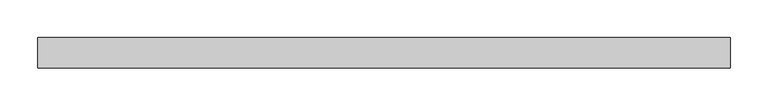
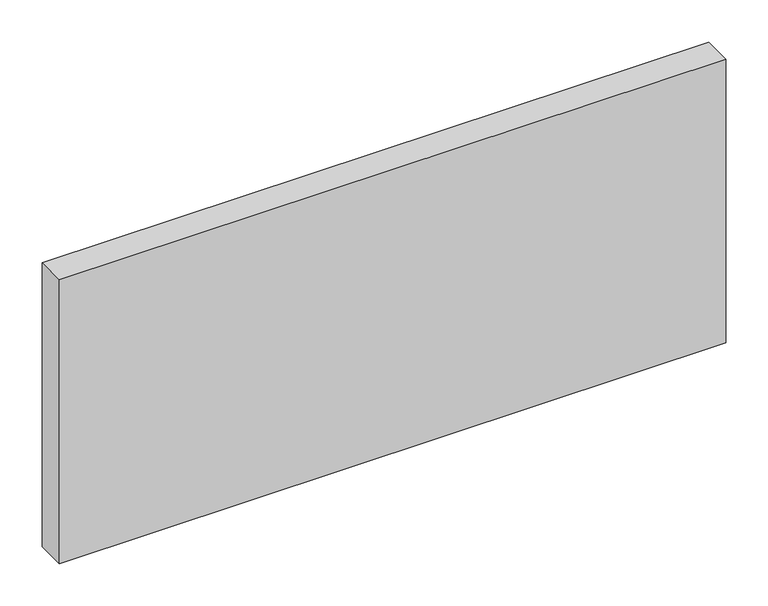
"""IFC4 building model written with IfcOpenShell, lengths in millimetres: plate geometry, Panneau système : Vitre 4cm."""

import ifcopenshell
import ifcopenshell.guid

model = None  # the IFC model being written
_history = None  # IfcOwnerHistory: only IFC2X3 demands one
_inside = {}  # id of a spatial element -> (the spatial element, [elements in it])
_under = {}  # id of a project, library or spatial element -> (it, [spatial elements below it])
_declared = {}  # id of a project -> (the project, [libraries it declares])
_typed = {}  # id of a type object -> (the type object, [elements of that type])
_made_of = {}  # id of a material, layer set ... -> (it, [elements and type objects made of it])


def new_model(schema):
    """Start an empty IFC model of exactly this schema.

    Asked for "IFC4X3", IfcOpenShell would pick the latest addendum, in which some entities
    have other attributes; the version numbers below select the first issue.
    IFC2X3 requires an IfcOwnerHistory on every rooted entity: one is made here for all.
    """
    global model, _history
    if schema == "IFC4X3":
        model = ifcopenshell.file(schema_version=(4, 3, 0, 0))
    else:
        model = ifcopenshell.file(schema=schema)
    _inside.clear()
    _under.clear()
    _declared.clear()
    _typed.clear()
    _made_of.clear()
    _history = None
    if model.schema == "IFC2X3":
        org = make("IfcOrganization", Name="unknown")
        user = make(
            "IfcPersonAndOrganization",
            ThePerson=make("IfcPerson", FamilyName="unknown"),
            TheOrganization=org,
        )
        app = make(
            "IfcApplication",
            ApplicationDeveloper=org,
            Version="unknown",
            ApplicationFullName="unknown",
            ApplicationIdentifier="unknown",
        )
        _history = make(
            "IfcOwnerHistory",
            OwningUser=user,
            OwningApplication=app,
            ChangeAction="ADDED",
            CreationDate=0,
        )
    return model


def make(cls, **values):
    """One entity of the class cls with the attributes given. An attribute that is None is left unset."""
    return model.create_entity(
        cls, **{name: value for name, value in values.items() if value is not None}
    )


def rooted(cls, **values):
    """An entity with a GlobalId (a new one), such as an element, a storey or a relation."""
    return make(cls, GlobalId=ifcopenshell.guid.new(), OwnerHistory=_history, **values)


def si_unit(unit_type, name, prefix=None):
    """IfcSIUnit, for example si_unit("LENGTHUNIT", "METRE", prefix="MILLI")."""
    return make("IfcSIUnit", UnitType=unit_type, Prefix=prefix, Name=name)


def assignment(units):
    """IfcUnitAssignment: the units of a project."""
    return None if units is None else make("IfcUnitAssignment", Units=units)


def point(xyz):
    """IfcCartesianPoint."""
    return None if xyz is None else make("IfcCartesianPoint", Coordinates=xyz)


def direction(xyz):
    """IfcDirection."""
    return None if xyz is None else make("IfcDirection", DirectionRatios=xyz)


def frame(location, z_axis=None, x_axis=None):
    """IfcAxis2Placement3D, a coordinate frame: its origin and axes. An axis left out is left unset."""
    return make(
        "IfcAxis2Placement3D",
        Location=point(location),
        Axis=direction(z_axis),
        RefDirection=direction(x_axis),
    )


def origin():
    """The frame at (0, 0, 0) with its axes left unset."""
    return frame((0.0, 0.0, 0.0))


def origin_with_axes():
    """The frame at (0, 0, 0) with the z axis (0, 0, 1) and the x axis (1, 0, 0) written out."""
    return frame((0.0, 0.0, 0.0), z_axis=(0.0, 0.0, 1.0), x_axis=(1.0, 0.0, 0.0))


def place(relative_to, where):
    """IfcLocalPlacement: puts the frame where relative to a parent placement (None: the world)."""
    return make(
        "IfcLocalPlacement", PlacementRelTo=relative_to, RelativePlacement=where
    )


def context(
    kind, dimensions, precision=None, world=None, true_north=None, identifier=None
):
    """IfcGeometricRepresentationContext, for example the 3D "Model" context."""
    return make(
        "IfcGeometricRepresentationContext",
        ContextIdentifier=identifier,
        ContextType=kind,
        CoordinateSpaceDimension=dimensions,
        Precision=precision,
        WorldCoordinateSystem=world,
        TrueNorth=true_north,
    )


def project(units=None, contexts=None):
    """IfcProject with its units and contexts."""
    return rooted(
        "IfcProject",
        Name="project",
        RepresentationContexts=contexts,
        UnitsInContext=assignment(units),
    )


def spatial(cls, under=None, at=None, **own):
    """A site, building, storey or space (cls), placed at a placement, below another one or the project."""
    s = rooted(cls, ObjectPlacement=at, **own)
    if under is not None:
        _under.setdefault(under.id(), (under, []))[1].append(s)
    return s


def polyline(points):
    """IfcPolyline through the points."""
    return make("IfcPolyline", Points=[point(p) for p in points])


def outline(outer, holes=None, kind="AREA"):
    """IfcArbitraryClosedProfileDef: a profile drawn as a closed curve; with holes, ...WithVoids."""
    if holes is None:
        return make("IfcArbitraryClosedProfileDef", ProfileType=kind, OuterCurve=outer)
    return make(
        "IfcArbitraryProfileDefWithVoids",
        ProfileType=kind,
        OuterCurve=outer,
        InnerCurves=holes,
    )


def extrude(swept, where, along, depth):
    """IfcExtrudedAreaSolid: the profile swept, set in the frame where, extruded along a direction by depth."""
    return make(
        "IfcExtrudedAreaSolid",
        SweptArea=swept,
        Position=where,
        ExtrudedDirection=direction(along),
        Depth=depth,
    )


def shape(context_of_items, identifier, shape_type, items):
    """IfcShapeRepresentation: the items that make up one representation, for example the "Body"."""
    return make(
        "IfcShapeRepresentation",
        ContextOfItems=context_of_items,
        RepresentationIdentifier=identifier,
        RepresentationType=shape_type,
        Items=items,
    )


def source(mapping_origin, context_of_items, identifier, shape_type, items):
    """IfcRepresentationMap: a shape defined once, which mapped items show again and again."""
    return make(
        "IfcRepresentationMap",
        MappingOrigin=mapping_origin,
        MappedRepresentation=shape(context_of_items, identifier, shape_type, items),
    )


def transform(
    local_origin,
    x_axis=None,
    y_axis=None,
    z_axis=None,
    scale=None,
    scale2=None,
    scale3=None,
    uniform=True,
):
    """IfcCartesianTransformationOperator3D, or its non-uniform kind. x_axis, y_axis, z_axis: its Axis1, 2, 3."""
    if uniform:
        return make(
            "IfcCartesianTransformationOperator3D",
            Axis1=direction(x_axis),
            Axis2=direction(y_axis),
            LocalOrigin=point(local_origin),
            Scale=scale,
            Axis3=direction(z_axis),
        )
    return make(
        "IfcCartesianTransformationOperator3DnonUniform",
        Axis1=direction(x_axis),
        Axis2=direction(y_axis),
        LocalOrigin=point(local_origin),
        Scale=scale,
        Axis3=direction(z_axis),
        Scale2=scale2,
        Scale3=scale3,
    )


def mapped(mapping_source, mapping_target):
    """IfcMappedItem: shows the shape of a source again, moved by a transform."""
    return make(
        "IfcMappedItem", MappingSource=mapping_source, MappingTarget=mapping_target
    )


def made_of(thing, what):
    """Note that an element or type object is made of a material, layer set ...; save() writes the relation."""
    if what is not None:
        _made_of.setdefault(what.id(), (what, []))[1].append(thing)
    return thing


def element(
    cls,
    number,
    at=None,
    inside=None,
    cuts=None,
    type_object=None,
    material=None,
    context=None,
    identifier="Body",
    shape_type=None,
    held_by="IfcProductDefinitionShape",
    body=None,
    shapes=None,
    **own,
):
    """One element of the class cls, such as IfcWall. Its Tag is "e" and its number.

    at: its placement. inside: the storey or other place that contains it. cuts: it is an
    opening in that element (IfcRelVoidsElement). A single representation is given by context,
    identifier, shape_type and body (its items); several are given by shapes. held_by: the class
    of the entity that holds the representations. save() writes the other relations.
    """
    e = rooted(cls, Tag="e%d" % number, ObjectPlacement=at, **own)
    if body is not None:
        shapes = [shape(context, identifier, shape_type, body)]
    if shapes is not None:
        e.Representation = make(held_by, Representations=shapes)
    if inside is not None:
        _inside.setdefault(inside.id(), (inside, []))[1].append(e)
    if cuts is not None:
        rooted(
            "IfcRelVoidsElement", RelatingBuildingElement=cuts, RelatedOpeningElement=e
        )
    if type_object is not None:
        _typed.setdefault(type_object.id(), (type_object, []))[1].append(e)
    return made_of(e, material)


def aggregate(whole, parts):
    """IfcRelAggregates: a whole, such as a stair, and the parts it consists of."""
    return rooted("IfcRelAggregates", RelatingObject=whole, RelatedObjects=parts)


def save(model, path):
    """Write the relations noted so far, then the file.

    IfcRelAggregates (storeys below a building ...), IfcRelContainedInSpatialStructure (elements
    in a storey), IfcRelDefinesByType, IfcRelAssociatesMaterial and IfcRelDeclares: one each for
    every whole, place, type object, material and project.
    """
    for whole, parts in _under.values():
        aggregate(whole, parts)
    for where, things in _inside.values():
        rooted(
            "IfcRelContainedInSpatialStructure",
            RelatedElements=things,
            RelatingStructure=where,
        )
    for kind, things in _typed.values():
        rooted("IfcRelDefinesByType", RelatedObjects=things, RelatingType=kind)
    for what, things in _made_of.values():
        rooted("IfcRelAssociatesMaterial", RelatedObjects=things, RelatingMaterial=what)
    for by, libraries in _declared.values():
        rooted("IfcRelDeclares", RelatingContext=by, RelatedDefinitions=libraries)
    model.write(path)


def plate_3e23de91(model_context):
    return source(origin(), model_context, "Body", "SweptSolid", [
        extrude(outline(polyline([(455.5778041, -20.0), (-455.5778041, -20.0), (-455.5778041, 20.0), (455.5778041, 20.0), (455.5778041, -20.0)])), origin_with_axes(), (0.0, 0.0, 1.0), 410.0),
    ])


if __name__ == "__main__":
    model = new_model("IFC4")
    model_context = context("Model", 3, world=origin())
    ifc_project = project(units=[si_unit("LENGTHUNIT", "METRE", prefix="MILLI")], contexts=[model_context])
    site = spatial("IfcSite", under=ifc_project)
    building = spatial("IfcBuilding", under=site)
    placement = place(None, origin())
    plate_shape = plate_3e23de91(model_context)
    element("IfcPlate", 1, ObjectType="Panneau système : Vitre 4cm", at=placement, inside=building, context=model_context, shape_type="MappedRepresentation", body=[
        mapped(plate_shape, transform((0.0, 0.0, 0.0), x_axis=(1.0, 0.0, 0.0), y_axis=(0.0, 1.0, 0.0), z_axis=(0.0, 0.0, 1.0))),
    ])
    save(model, "model.ifc")
